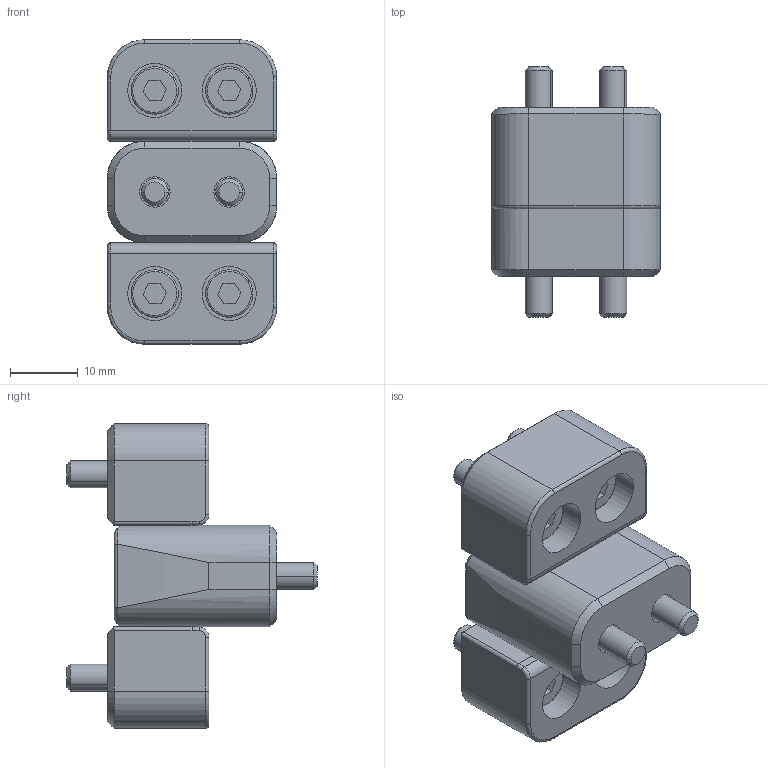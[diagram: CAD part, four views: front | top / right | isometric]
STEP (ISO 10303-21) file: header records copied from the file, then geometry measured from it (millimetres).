
FILE_DESCRIPTION (( 'STEP AP203' ), '1' );
FILE_NAME ('GLM25X45-R.step', '2015-11-05T22:07:44', ( '' ), ( '' ), 'SwSTEP 2.0', 'SolidWorks 2014', '' );
FILE_SCHEMA (( 'CONFIG_CONTROL_DESIGN' ));
Length unit declared in the file: millimetre
Products named in the file (6): M4_X_25; GLM25X45-R MALE; GLM25X45-R; GLM25X45-R RH; M4_X_14; GLM25X45-R LH
Assembly tree (9 placements, depth 2):
  GLM25X45-R
    GLM25X45-R MALE
    GLM25X45-R RH
    GLM25X45-R LH
    M4_X_14  x4
    M4_X_25  x2
Bounding box: 25 x 37 x 45 mm (x, y, z)
Volume: 18119.3 mm3; surface area: 10188.6 mm2
Topology: 9 solids, 9 shells, 414 faces, 882 edges, 568 vertices
Faces by surface type: cylinder 206, plane 160, torus 28, cone 20
Entity records: 10242 total; most frequent: DIRECTION 1806, CARTESIAN_POINT 1724, ORIENTED_EDGE 1460, AXIS2_PLACEMENT_3D 754, EDGE_CURVE 730, VERTEX_POINT 472, EDGE_LOOP 428, CIRCLE 400
